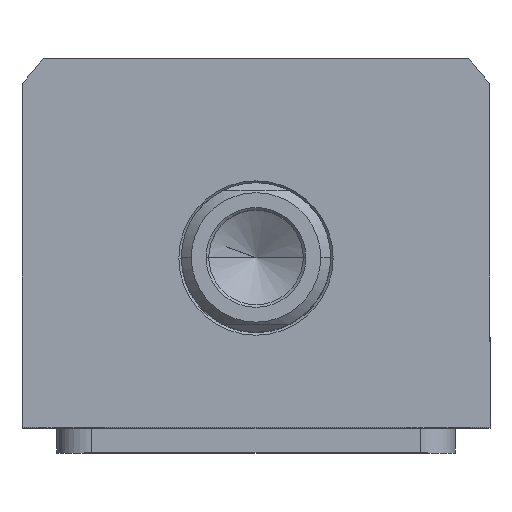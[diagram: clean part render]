
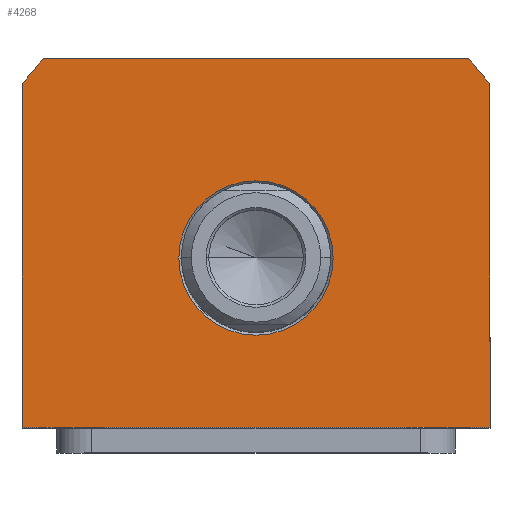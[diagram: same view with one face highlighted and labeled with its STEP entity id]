
A CAD part, top view. The second image highlights one B-rep face of the part: STEP entity #4268.
In plain terms, the highlighted planar face has unit normal (0, 0, 1).
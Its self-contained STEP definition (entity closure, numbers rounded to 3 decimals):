
#78 = VERTEX_POINT ( 'NONE', #1109 ) ;
#331 = CARTESIAN_POINT ( 'NONE',  ( -42.688, 40., 67.5 ) ) ;
#462 = ORIENTED_EDGE ( 'NONE', *, *, #1062, .T. ) ;
#601 = CARTESIAN_POINT ( 'NONE',  ( -42.688, 40., 67.5 ) ) ;
#696 = CIRCLE ( 'NONE', #11676, 58.5 ) ;
#770 = CARTESIAN_POINT ( 'NONE',  ( 0., 0., 67.5 ) ) ;
#873 = VERTEX_POINT ( 'NONE', #3036 ) ;
#1062 = EDGE_CURVE ( 'NONE', #11857, #5263, #696, .T. ) ;
#1109 = CARTESIAN_POINT ( 'NONE',  ( 47., 34.832, 67.5 ) ) ;
#1278 = DIRECTION ( 'NONE',  ( 1., 0., 0. ) ) ;
#1360 = VERTEX_POINT ( 'NONE', #10609 ) ;
#1435 = VERTEX_POINT ( 'NONE', #9277 ) ;
#1551 = LINE ( 'NONE', #6016, #1846 ) ;
#1694 = DIRECTION ( 'NONE',  ( 0., 0., -1. ) ) ;
#1723 = AXIS2_PLACEMENT_3D ( 'NONE', #9422, #3059, #5712 ) ;
#1728 = EDGE_CURVE ( 'NONE', #5263, #4903, #1551, .T. ) ;
#1846 = VECTOR ( 'NONE', #9645, 1000. ) ;
#2005 = EDGE_LOOP ( 'NONE', ( #8217, #11831, #5905, #8039, #462, #10438 ) ) ;
#2108 = EDGE_CURVE ( 'NONE', #78, #1360, #6818, .T. ) ;
#2246 = CARTESIAN_POINT ( 'NONE',  ( 0., 0., 67.5 ) ) ;
#2294 = DIRECTION ( 'NONE',  ( 0., 0., 1. ) ) ;
#2437 = CARTESIAN_POINT ( 'NONE',  ( 0., 0., 67.5 ) ) ;
#2509 = EDGE_CURVE ( 'NONE', #1435, #7609, #3488, .T. ) ;
#2576 = FACE_BOUND ( 'NONE', #10054, .T. ) ;
#2585 = DIRECTION ( 'NONE',  ( 1., 0., 0. ) ) ;
#2652 = EDGE_CURVE ( 'NONE', #4903, #873, #6619, .T. ) ;
#3036 = CARTESIAN_POINT ( 'NONE',  ( 47., -34., 67.5 ) ) ;
#3059 = DIRECTION ( 'NONE',  ( 0., 0., 1. ) ) ;
#3085 = AXIS2_PLACEMENT_3D ( 'NONE', #770, #1694, #2585 ) ;
#3107 = CARTESIAN_POINT ( 'NONE',  ( -47., 34.832, 67.5 ) ) ;
#3237 = EDGE_CURVE ( 'NONE', #1360, #11857, #3772, .T. ) ;
#3488 = CIRCLE ( 'NONE', #3085, 15.5 ) ;
#3719 = EDGE_CURVE ( 'NONE', #7609, #1435, #10467, .T. ) ;
#3772 = LINE ( 'NONE', #331, #5617 ) ;
#3875 = PLANE ( 'NONE',  #6690 ) ;
#4022 = ORIENTED_EDGE ( 'NONE', *, *, #2509, .T. ) ;
#4236 = DIRECTION ( 'NONE',  ( 1., 0., 0. ) ) ;
#4268 = ADVANCED_FACE ( 'NONE', ( #2576, #9608 ), #3875, .T. ) ;
#4343 = DIRECTION ( 'NONE',  ( 0., 1., 0. ) ) ;
#4889 = LINE ( 'NONE', #6035, #8755 ) ;
#4903 = VERTEX_POINT ( 'NONE', #8893 ) ;
#5263 = VERTEX_POINT ( 'NONE', #3107 ) ;
#5479 = AXIS2_PLACEMENT_3D ( 'NONE', #2437, #6979, #4236 ) ;
#5617 = VECTOR ( 'NONE', #8734, 1000. ) ;
#5712 = DIRECTION ( 'NONE',  ( 1., 0., 0. ) ) ;
#5905 = ORIENTED_EDGE ( 'NONE', *, *, #2108, .T. ) ;
#6016 = CARTESIAN_POINT ( 'NONE',  ( -47., -34., 67.5 ) ) ;
#6035 = CARTESIAN_POINT ( 'NONE',  ( 47., 34.832, 67.5 ) ) ;
#6619 = LINE ( 'NONE', #8231, #11810 ) ;
#6690 = AXIS2_PLACEMENT_3D ( 'NONE', #6795, #2294, #11428 ) ;
#6795 = CARTESIAN_POINT ( 'NONE',  ( 0., 0., 67.5 ) ) ;
#6818 = CIRCLE ( 'NONE', #1723, 58.5 ) ;
#6979 = DIRECTION ( 'NONE',  ( 0., 0., -1. ) ) ;
#7609 = VERTEX_POINT ( 'NONE', #10348 ) ;
#8039 = ORIENTED_EDGE ( 'NONE', *, *, #3237, .T. ) ;
#8217 = ORIENTED_EDGE ( 'NONE', *, *, #2652, .T. ) ;
#8231 = CARTESIAN_POINT ( 'NONE',  ( 47., -34., 67.5 ) ) ;
#8686 = DIRECTION ( 'NONE',  ( 0., 0., 1. ) ) ;
#8734 = DIRECTION ( 'NONE',  ( -1., 0., 0. ) ) ;
#8755 = VECTOR ( 'NONE', #4343, 1000. ) ;
#8893 = CARTESIAN_POINT ( 'NONE',  ( -47., -34., 67.5 ) ) ;
#9163 = DIRECTION ( 'NONE',  ( 1., 0., 0. ) ) ;
#9277 = CARTESIAN_POINT ( 'NONE',  ( -15.5, 0., 67.5 ) ) ;
#9340 = EDGE_CURVE ( 'NONE', #873, #78, #4889, .T. ) ;
#9422 = CARTESIAN_POINT ( 'NONE',  ( 0., 0., 67.5 ) ) ;
#9608 = FACE_OUTER_BOUND ( 'NONE', #2005, .T. ) ;
#9645 = DIRECTION ( 'NONE',  ( 0., -1., 0. ) ) ;
#10054 = EDGE_LOOP ( 'NONE', ( #11539, #4022 ) ) ;
#10348 = CARTESIAN_POINT ( 'NONE',  ( 15.5, 0., 67.5 ) ) ;
#10438 = ORIENTED_EDGE ( 'NONE', *, *, #1728, .T. ) ;
#10467 = CIRCLE ( 'NONE', #5479, 15.5 ) ;
#10609 = CARTESIAN_POINT ( 'NONE',  ( 42.688, 40., 67.5 ) ) ;
#11428 = DIRECTION ( 'NONE',  ( 1., 0., 0. ) ) ;
#11539 = ORIENTED_EDGE ( 'NONE', *, *, #3719, .T. ) ;
#11676 = AXIS2_PLACEMENT_3D ( 'NONE', #2246, #8686, #1278 ) ;
#11810 = VECTOR ( 'NONE', #9163, 1000. ) ;
#11831 = ORIENTED_EDGE ( 'NONE', *, *, #9340, .T. ) ;
#11857 = VERTEX_POINT ( 'NONE', #601 ) ;
